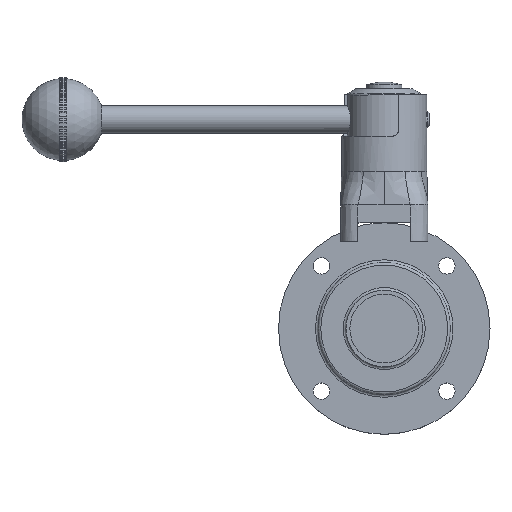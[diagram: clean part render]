
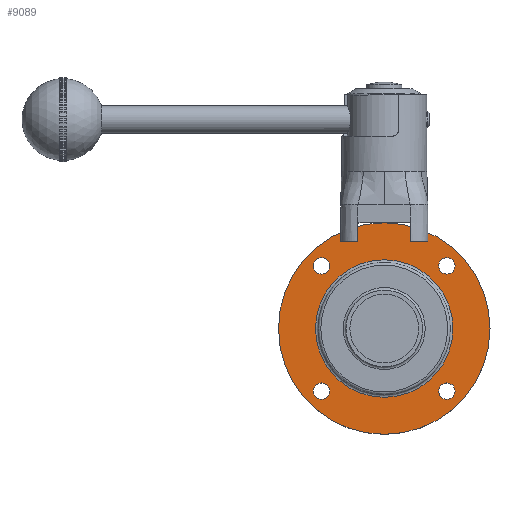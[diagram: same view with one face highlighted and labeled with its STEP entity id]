
A CAD part, top view. The second image highlights one B-rep face of the part: STEP entity #9089.
In plain terms, the highlighted planar face has unit normal (0, 0, 1) as drawn and (1, 0, 0) by its records, which use the part's own axes.
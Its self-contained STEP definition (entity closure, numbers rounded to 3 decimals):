
#1434=FACE_BOUND('',#2568,.T.);
#1435=FACE_BOUND('',#2569,.T.);
#1436=FACE_BOUND('',#2570,.T.);
#1437=FACE_BOUND('',#2571,.T.);
#1438=FACE_BOUND('',#2572,.T.);
#1953=FACE_OUTER_BOUND('',#2567,.T.);
#2567=EDGE_LOOP('',(#7810));
#2568=EDGE_LOOP('',(#7811));
#2569=EDGE_LOOP('',(#7812));
#2570=EDGE_LOOP('',(#7813));
#2571=EDGE_LOOP('',(#7814));
#2572=EDGE_LOOP('',(#7815));
#3137=CIRCLE('',#10199,40.);
#3139=CIRCLE('',#10203,3.1);
#3140=CIRCLE('',#10205,3.1);
#3141=CIRCLE('',#10207,3.1);
#3142=CIRCLE('',#10209,3.1);
#3143=CIRCLE('',#10211,26.);
#3987=VERTEX_POINT('',#26335);
#3989=VERTEX_POINT('',#26342);
#3990=VERTEX_POINT('',#26346);
#3991=VERTEX_POINT('',#26350);
#3992=VERTEX_POINT('',#26354);
#3993=VERTEX_POINT('',#26358);
#5258=EDGE_CURVE('',#3987,#3987,#3137,.T.);
#5262=EDGE_CURVE('',#3989,#3989,#3139,.T.);
#5264=EDGE_CURVE('',#3990,#3990,#3140,.T.);
#5266=EDGE_CURVE('',#3991,#3991,#3141,.T.);
#5268=EDGE_CURVE('',#3992,#3992,#3142,.T.);
#5269=EDGE_CURVE('',#3993,#3993,#3143,.T.);
#7810=ORIENTED_EDGE('',*,*,#5258,.T.);
#7811=ORIENTED_EDGE('',*,*,#5262,.T.);
#7812=ORIENTED_EDGE('',*,*,#5264,.T.);
#7813=ORIENTED_EDGE('',*,*,#5266,.T.);
#7814=ORIENTED_EDGE('',*,*,#5268,.T.);
#7815=ORIENTED_EDGE('',*,*,#5269,.F.);
#8193=PLANE('',#10210);
#9089=ADVANCED_FACE('',(#1953,#1434,#1435,#1436,#1437,#1438),#8193,.T.);
#10199=AXIS2_PLACEMENT_3D('',#26336,#12707,#12708);
#10203=AXIS2_PLACEMENT_3D('',#26344,#12717,#12718);
#10205=AXIS2_PLACEMENT_3D('',#26348,#12722,#12723);
#10207=AXIS2_PLACEMENT_3D('',#26352,#12727,#12728);
#10209=AXIS2_PLACEMENT_3D('',#26356,#12732,#12733);
#10210=AXIS2_PLACEMENT_3D('',#26357,#12734,#12735);
#10211=AXIS2_PLACEMENT_3D('',#26359,#12736,#12737);
#12707=DIRECTION('center_axis',(1.,0.,0.));
#12708=DIRECTION('ref_axis',(0.,0.,-1.));
#12717=DIRECTION('center_axis',(-1.,0.,0.));
#12718=DIRECTION('ref_axis',(0.,0.,1.));
#12722=DIRECTION('center_axis',(-1.,0.,0.));
#12723=DIRECTION('ref_axis',(0.,0.,1.));
#12727=DIRECTION('center_axis',(-1.,0.,0.));
#12728=DIRECTION('ref_axis',(0.,0.,1.));
#12732=DIRECTION('center_axis',(-1.,0.,0.));
#12733=DIRECTION('ref_axis',(0.,0.,1.));
#12734=DIRECTION('center_axis',(1.,0.,0.));
#12735=DIRECTION('ref_axis',(0.,0.,-1.));
#12736=DIRECTION('center_axis',(1.,0.,0.));
#12737=DIRECTION('ref_axis',(0.,0.,-1.));
#26335=CARTESIAN_POINT('',(10.,-40.,0.));
#26336=CARTESIAN_POINT('Origin',(10.,0.,0.));
#26342=CARTESIAN_POINT('',(10.,-23.688,20.588));
#26344=CARTESIAN_POINT('Origin',(10.,-23.688,23.688));
#26346=CARTESIAN_POINT('',(10.,23.688,-26.788));
#26348=CARTESIAN_POINT('Origin',(10.,23.688,-23.688));
#26350=CARTESIAN_POINT('',(10.,-23.688,-26.788));
#26352=CARTESIAN_POINT('Origin',(10.,-23.688,-23.688));
#26354=CARTESIAN_POINT('',(10.,23.688,20.588));
#26356=CARTESIAN_POINT('Origin',(10.,23.688,23.688));
#26357=CARTESIAN_POINT('Origin',(10.,26.,0.));
#26358=CARTESIAN_POINT('',(10.,0.,26.));
#26359=CARTESIAN_POINT('Origin',(10.,0.,0.));
